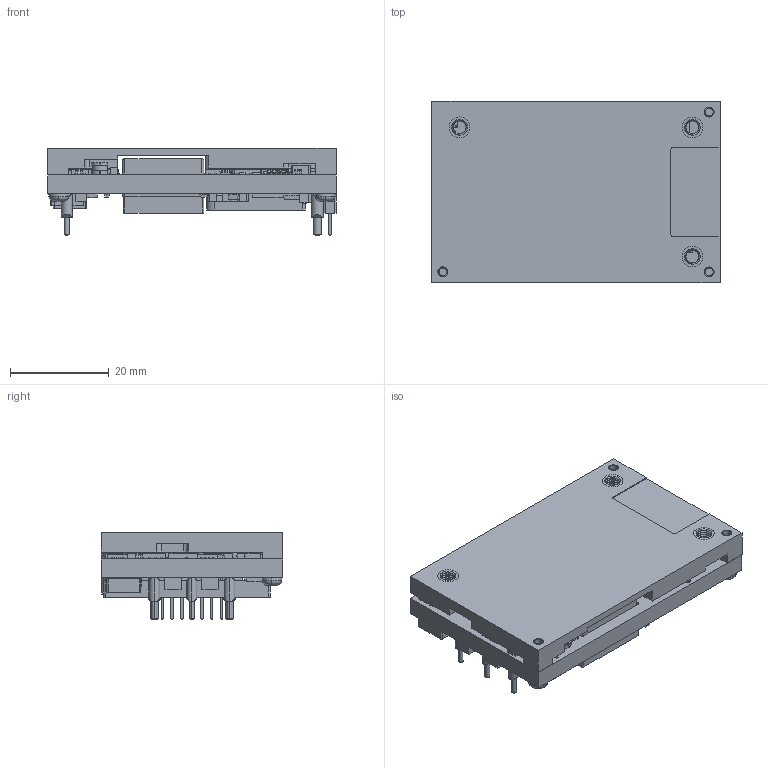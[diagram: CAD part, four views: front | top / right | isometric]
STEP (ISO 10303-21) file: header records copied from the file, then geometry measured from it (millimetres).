
FILE_DESCRIPTION((''),'2;1');
FILE_NAME('NDQ900-48S12B-6LI-TLA_ASM','2022-11-02T13:17:19',('leo.chen1'),(''),'CREO PARAMETRIC BY PTC INC, 2020454','CREO PARAMETRIC BY PTC INC, 2020454','');
FILE_SCHEMA(('CONFIG_CONTROL_DESIGN','SHAPE_APPEARANCE_LAYERS_GROUPS'));
Products named in the file (39): 509-026543-0002-AA; R-0603-SR; C-1206-018-SR; SOD123FL-011-SR; POWERPAK1212S-SR; POWERPAK1212S1-SR; BMP-2-SOT669-SR; BMP-C-1206-SR; CHK-AVD503345L1-SR; SON8-THERMALPAD03380245-SR; SOT416-SR; WFR07V1-0200-070030030-025-M-MM; MLP8-THERMALPAD-SR; C-0805-SR; BMP-C-0805-SR; SOD323-SR; SOD523-SR; SOT363-SR; SOT666-SR; QFN40-THERMAL-4-SR; SOT23-SR; SOT353-SR; LLP8-THERMALPAD03000198-SR; CHK-SC2511-R22MHF-SR; BMP-SOT669-SR; C-1210-024-SR; 602-005202-0000-D1-1155; 602-005216-0000-D1-D22-1155; 602-005217-0000-D15-1155; 509-026543-0002-AA_ASM; 820-005214-0000-T1-UPPER; 820-005214-0000-T1-I; 820-005213-0000-L3-U; 820-005213-0000-L3-TOP; 500-011288-0002-BASEPLATE; 601-M3X28-NUT; 500-011288-0002-BASEPLATE_ASM; 601-001827-0008-M2X8; NDQ900-48S12B-6LI-TLA_ASM
Assembly tree (88 placements, depth 3):
  NDQ900-48S12B-6LI-TLA_ASM
    509-026543-0002-AA_ASM
      509-026543-0002-AA
      R-0603-SR
      C-1206-018-SR
      SOD123FL-011-SR  x2
      POWERPAK1212S-SR  x2
      POWERPAK1212S1-SR
      BMP-2-SOT669-SR  x4
      BMP-C-1206-SR  x10
      CHK-AVD503345L1-SR
      SON8-THERMALPAD03380245-SR  x2
      SOT416-SR  x3
      WFR07V1-0200-070030030-025-M-MM
      MLP8-THERMALPAD-SR  x2
      C-0805-SR  x10
      BMP-C-0805-SR  x2
      SOD323-SR  x4
      SOD523-SR  x5
      SOT363-SR
      SOT666-SR  x2
      QFN40-THERMAL-4-SR
      SOT23-SR
      SOT353-SR
      LLP8-THERMALPAD03000198-SR
      CHK-SC2511-R22MHF-SR
      BMP-SOT669-SR  x6
      C-1210-024-SR  x4
      602-005202-0000-D1-1155
      602-005216-0000-D1-D22-1155  x2
      602-005217-0000-D15-1155  x2
    820-005214-0000-T1-UPPER
    820-005214-0000-T1-I
    820-005213-0000-L3-U
    820-005213-0000-L3-TOP
    500-011288-0002-BASEPLATE_ASM
      500-011288-0002-BASEPLATE
      601-M3X28-NUT  x3
    601-001827-0008-M2X8  x3
Bounding box: 58.4 x 36.8 x 17.8 mm (x, y, z)
Volume: 20430.9 mm3; surface area: 19644.8 mm2
Topology: 86 solids, 89 shells, 5579 faces, 14340 edges, 8990 vertices
Faces by surface type: plane 4018, cylinder 832, bspline 671, cone 45, torus 13
Entity records: 146501 total; most frequent: CARTESIAN_POINT 68045, ORIENTED_EDGE 12606, DIRECTION 11306, EDGE_CURVE 6309, PRESENTATION_STYLE_ASSIGNMENT 5155, VECTOR 5136, LINE 5136, STYLED_ITEM 4881
